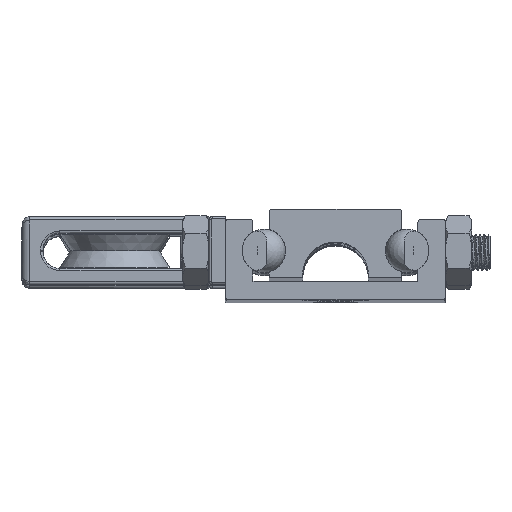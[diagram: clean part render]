
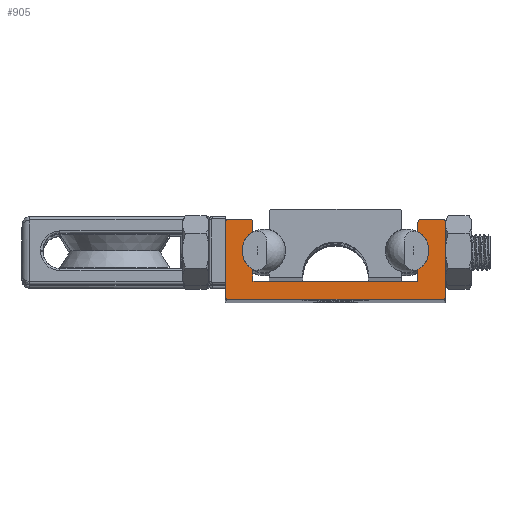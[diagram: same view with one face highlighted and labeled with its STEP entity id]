
A CAD part, top view. The second image highlights one B-rep face of the part: STEP entity #905.
In plain terms, the highlighted planar face has unit normal (0, 0, 1).
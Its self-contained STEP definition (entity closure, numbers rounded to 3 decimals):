
#61=CARTESIAN_POINT('',(7.5,1.6,203.2));
#62=VERTEX_POINT('',#61);
#69=CARTESIAN_POINT('',(7.5,2.677,203.2));
#70=VERTEX_POINT('',#69);
#71=CARTESIAN_POINT('',(7.5,2.677,203.2));
#72=DIRECTION('',(0.,-1.,0.));
#73=VECTOR('',#72,1.077);
#74=LINE('',#71,#73);
#75=EDGE_CURVE('',#70,#62,#74,.T.);
#101=CARTESIAN_POINT('',(-7.5,2.677,203.2));
#102=VERTEX_POINT('',#101);
#109=CARTESIAN_POINT('',(-7.5,1.6,203.2));
#110=VERTEX_POINT('',#109);
#111=CARTESIAN_POINT('',(-7.5,1.6,203.2));
#112=DIRECTION('',(0.,1.,0.));
#113=VECTOR('',#112,1.077);
#114=LINE('',#111,#113);
#115=EDGE_CURVE('',#110,#102,#114,.T.);
#141=CARTESIAN_POINT('',(7.5,6.123,203.2));
#142=VERTEX_POINT('',#141);
#143=CARTESIAN_POINT('',(6.516,4.4,203.2));
#144=DIRECTION('',(0.496,0.868,0.));
#145=DIRECTION('',(0.,0.,-1.));
#146=AXIS2_PLACEMENT_3D('',#143,#145,#144);
#147=CIRCLE('',#146,1.985);
#148=EDGE_CURVE('',#142,#70,#147,.T.);
#265=CARTESIAN_POINT('',(-7.5,6.123,203.2));
#266=VERTEX_POINT('',#265);
#273=CARTESIAN_POINT('',(-6.516,4.4,203.2));
#274=DIRECTION('',(-0.496,-0.868,0.));
#275=DIRECTION('',(0.,0.,-1.));
#276=AXIS2_PLACEMENT_3D('',#273,#275,#274);
#277=CIRCLE('',#276,1.985);
#278=EDGE_CURVE('',#102,#266,#277,.T.);
#599=CARTESIAN_POINT('',(7.7,7.2,203.2));
#600=VERTEX_POINT('',#599);
#607=CARTESIAN_POINT('',(9.8,7.2,203.2));
#608=VERTEX_POINT('',#607);
#609=CARTESIAN_POINT('',(9.8,7.2,203.2));
#610=DIRECTION('',(-1.,0.,0.));
#611=VECTOR('',#610,2.1);
#612=LINE('',#609,#611);
#613=EDGE_CURVE('',#608,#600,#612,.T.);
#629=CARTESIAN_POINT('',(7.5,7.,203.2));
#630=VERTEX_POINT('',#629);
#631=CARTESIAN_POINT('',(7.5,7.,203.2));
#632=DIRECTION('',(0.,-1.,0.));
#633=VECTOR('',#632,0.877);
#634=LINE('',#631,#633);
#635=EDGE_CURVE('',#630,#142,#634,.T.);
#668=CARTESIAN_POINT('',(-7.5,7.,203.2));
#669=VERTEX_POINT('',#668);
#676=CARTESIAN_POINT('',(-7.5,6.123,203.2));
#677=DIRECTION('',(0.,1.,0.));
#678=VECTOR('',#677,0.877);
#679=LINE('',#676,#678);
#680=EDGE_CURVE('',#266,#669,#679,.T.);
#701=CARTESIAN_POINT('',(-9.8,7.2,203.2));
#702=VERTEX_POINT('',#701);
#709=CARTESIAN_POINT('',(-7.7,7.2,203.2));
#710=VERTEX_POINT('',#709);
#711=CARTESIAN_POINT('',(-7.7,7.2,203.2));
#712=DIRECTION('',(-1.,0.,0.));
#713=VECTOR('',#712,2.1);
#714=LINE('',#711,#713);
#715=EDGE_CURVE('',#710,#702,#714,.T.);
#741=CARTESIAN_POINT('',(10.,7.,203.2));
#742=VERTEX_POINT('',#741);
#743=CARTESIAN_POINT('',(9.8,7.,203.2));
#744=DIRECTION('',(1.,0.,0.));
#745=DIRECTION('',(0.,0.,1.));
#746=AXIS2_PLACEMENT_3D('',#743,#745,#744);
#747=CIRCLE('',#746,0.2);
#748=EDGE_CURVE('',#742,#608,#747,.T.);
#772=CARTESIAN_POINT('',(7.7,7.,203.2));
#773=DIRECTION('',(0.,1.,0.));
#774=DIRECTION('',(0.,0.,1.));
#775=AXIS2_PLACEMENT_3D('',#772,#774,#773);
#776=CIRCLE('',#775,0.2);
#777=EDGE_CURVE('',#600,#630,#776,.T.);
#796=CARTESIAN_POINT('',(-7.7,7.,203.2));
#797=DIRECTION('',(1.,0.,0.));
#798=DIRECTION('',(0.,0.,1.));
#799=AXIS2_PLACEMENT_3D('',#796,#798,#797);
#800=CIRCLE('',#799,0.2);
#801=EDGE_CURVE('',#669,#710,#800,.T.);
#821=CARTESIAN_POINT('',(-10.,7.,203.2));
#822=VERTEX_POINT('',#821);
#829=CARTESIAN_POINT('',(-9.8,7.,203.2));
#830=DIRECTION('',(0.,1.,0.));
#831=DIRECTION('',(0.,0.,1.));
#832=AXIS2_PLACEMENT_3D('',#829,#831,#830);
#833=CIRCLE('',#832,0.2);
#834=EDGE_CURVE('',#702,#822,#833,.T.);
#840=CARTESIAN_POINT('',(0.,10.,203.2));
#841=DIRECTION('',(1.,0.,0.));
#842=DIRECTION('',(0.,0.,1.));
#843=AXIS2_PLACEMENT_3D('',#840,#842,#841);
#844=PLANE('',#843);
#845=ORIENTED_EDGE('',*,*,#748,.T.);
#846=ORIENTED_EDGE('',*,*,#613,.T.);
#847=ORIENTED_EDGE('',*,*,#777,.T.);
#848=ORIENTED_EDGE('',*,*,#635,.T.);
#849=ORIENTED_EDGE('',*,*,#148,.T.);
#850=ORIENTED_EDGE('',*,*,#75,.T.);
#851=CARTESIAN_POINT('',(7.5,1.6,203.2));
#852=DIRECTION('',(-1.,0.,0.));
#853=VECTOR('',#852,15.);
#854=LINE('',#851,#853);
#855=EDGE_CURVE('',#62,#110,#854,.T.);
#856=ORIENTED_EDGE('E19',*,*,#855,.T.);
#857=ORIENTED_EDGE('E19',*,*,#115,.T.);
#858=ORIENTED_EDGE('E19',*,*,#278,.T.);
#859=ORIENTED_EDGE('E19',*,*,#680,.T.);
#860=ORIENTED_EDGE('E19',*,*,#801,.T.);
#861=ORIENTED_EDGE('E19',*,*,#715,.T.);
#862=ORIENTED_EDGE('E19',*,*,#834,.T.);
#863=CARTESIAN_POINT('',(-10.,0.1,203.2));
#864=VERTEX_POINT('',#863);
#865=CARTESIAN_POINT('',(-10.,7.,203.2));
#866=DIRECTION('',(0.,-1.,0.));
#867=VECTOR('',#866,6.9);
#868=LINE('',#865,#867);
#869=EDGE_CURVE('',#822,#864,#868,.T.);
#870=ORIENTED_EDGE('E24',*,*,#869,.T.);
#871=CARTESIAN_POINT('',(-9.9,0.,203.2));
#872=VERTEX_POINT('',#871);
#873=CARTESIAN_POINT('',(-9.9,0.1,203.2));
#874=DIRECTION('',(-1.,0.,0.));
#875=DIRECTION('',(0.,0.,1.));
#876=AXIS2_PLACEMENT_3D('',#873,#875,#874);
#877=CIRCLE('',#876,0.1);
#878=EDGE_CURVE('',#864,#872,#877,.T.);
#879=ORIENTED_EDGE('E80',*,*,#878,.T.);
#880=CARTESIAN_POINT('',(9.9,0.,203.2));
#881=VERTEX_POINT('',#880);
#882=CARTESIAN_POINT('',(9.9,0.,203.2));
#883=DIRECTION('',(-1.,0.,0.));
#884=VECTOR('',#883,19.8);
#885=LINE('',#882,#884);
#886=EDGE_CURVE('',#881,#872,#885,.T.);
#887=ORIENTED_EDGE('E13',*,*,#886,.F.);
#888=CARTESIAN_POINT('',(10.,0.1,203.2));
#889=VERTEX_POINT('',#888);
#890=CARTESIAN_POINT('',(9.9,0.1,203.2));
#891=DIRECTION('',(0.,-1.,0.));
#892=DIRECTION('',(0.,0.,1.));
#893=AXIS2_PLACEMENT_3D('',#890,#892,#891);
#894=CIRCLE('',#893,0.1);
#895=EDGE_CURVE('',#881,#889,#894,.T.);
#896=ORIENTED_EDGE('E77',*,*,#895,.T.);
#897=CARTESIAN_POINT('',(10.,0.1,203.2));
#898=DIRECTION('',(0.,1.,0.));
#899=VECTOR('',#898,6.9);
#900=LINE('',#897,#899);
#901=EDGE_CURVE('',#889,#742,#900,.T.);
#902=ORIENTED_EDGE('E14',*,*,#901,.T.);
#903=EDGE_LOOP('',(#845,#846,#847,#848,#849,#850,#856,#857,#858,#859,#860,#861,#862,#870,#879,#887,#896,#902));
#904=FACE_OUTER_BOUND('',#903,.T.);
#905=ADVANCED_FACE('F18',(#904),#844,.T.);
